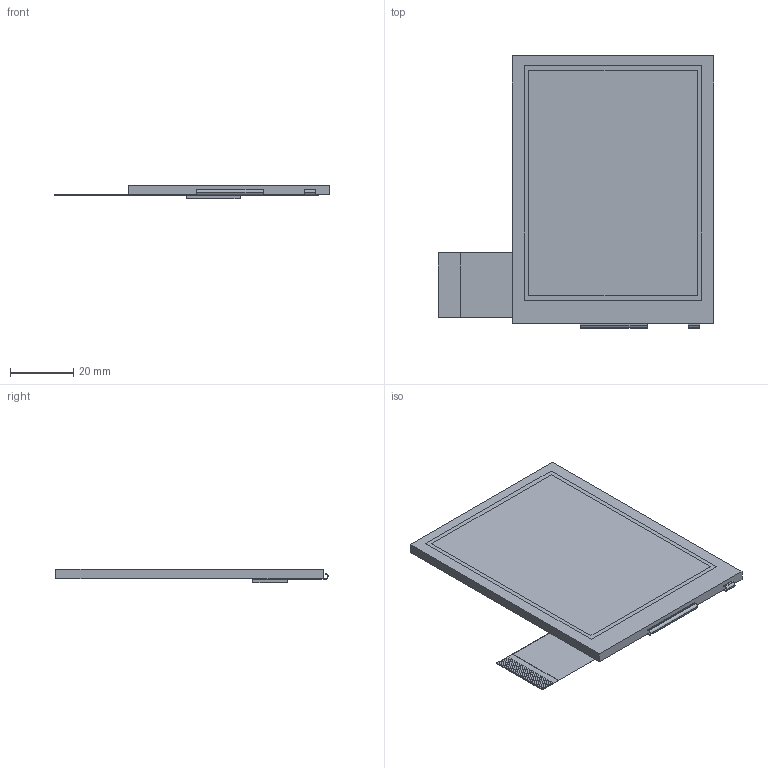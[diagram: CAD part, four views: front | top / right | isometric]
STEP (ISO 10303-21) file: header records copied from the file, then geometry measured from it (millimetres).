
FILE_DESCRIPTION (( 'STEP AP214' ), '1' );
FILE_NAME ('CFAF480640D0-035FN.STEP', '2020-01-10T19:31:03', ( '' ), ( '' ), 'SwSTEP 2.0', 'SolidWorks 2015', '' );
FILE_SCHEMA (( 'AUTOMOTIVE_DESIGN' ));
Length unit declared in the file: millimetre
Products named in the file (1): CFAF480640D0-035FN
Bounding box: 87.5 x 86.37 x 4.43 mm (x, y, z)
Volume: 17348.6 mm3; surface area: 15654.6 mm2
Topology: 2 solids, 2 shells, 200 faces, 590 edges, 396 vertices
Faces by surface type: plane 192, cylinder 8
Entity records: 6982 total; most frequent: CARTESIAN_POINT 1187, ORIENTED_EDGE 1180, DIRECTION 1008, EDGE_CURVE 590, LINE 574, VECTOR 574, VERTEX_POINT 396, AXIS2_PLACEMENT_3D 217
